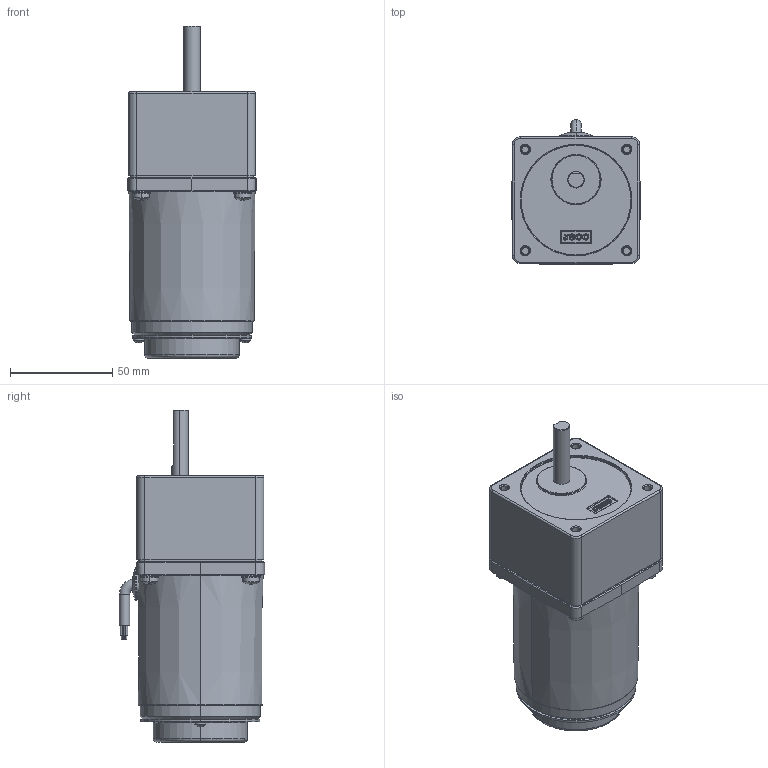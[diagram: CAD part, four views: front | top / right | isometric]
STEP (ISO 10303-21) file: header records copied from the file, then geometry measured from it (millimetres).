
FILE_DESCRIPTION( ('This file contains a STEP AP42 implementation' ,'as created by ZW3D STEP Interface translator.' ,'') ,'2;1' );
FILE_NAME( '6yt01-180.stp' ,'24 711.11 345', (''), ('ZWCAD Software Co.'), 'Version 1.0', 'ZW3D to STEP translator', '' );
FILE_SCHEMA(('AUTOMOTIVE_DESIGN { 1 0 10303 214 1 1 1 1 }'));
Length unit declared in the file: millimetre
Products named in the file (8): 0; 6yt01-180; 60YT06G_ASM_0; 60YT06G_0; YCX_6-200_0; 60GK-H-180_ASM; 60GK-H-180; 60GK-H-180_2
Assembly tree (6 placements, depth 3):
  0
  6yt01-180
    60YT06G_ASM_0
      60YT06G_0
      YCX_6-200_0
    60GK-H-180_ASM
      60GK-H-180
      60GK-H-180_2
Bounding box: 62.8 x 70.9 x 162 mm (x, y, z)
Volume: 396906.2 mm3; surface area: 51647.4 mm2
Topology: 4 solids, 6 shells, 1487 faces, 3914 edges, 2541 vertices
Faces by surface type: plane 1037, cylinder 234, bspline 89, cone 60, torus 57, sphere 10
Entity records: 55686 total; most frequent: CARTESIAN_POINT 18089, ORIENTED_EDGE 7828, DIRECTION 6777, EDGE_CURVE 3914, VECTOR 2759, LINE 2759, VERTEX_POINT 2541, AXIS2_PLACEMENT_3D 2009
